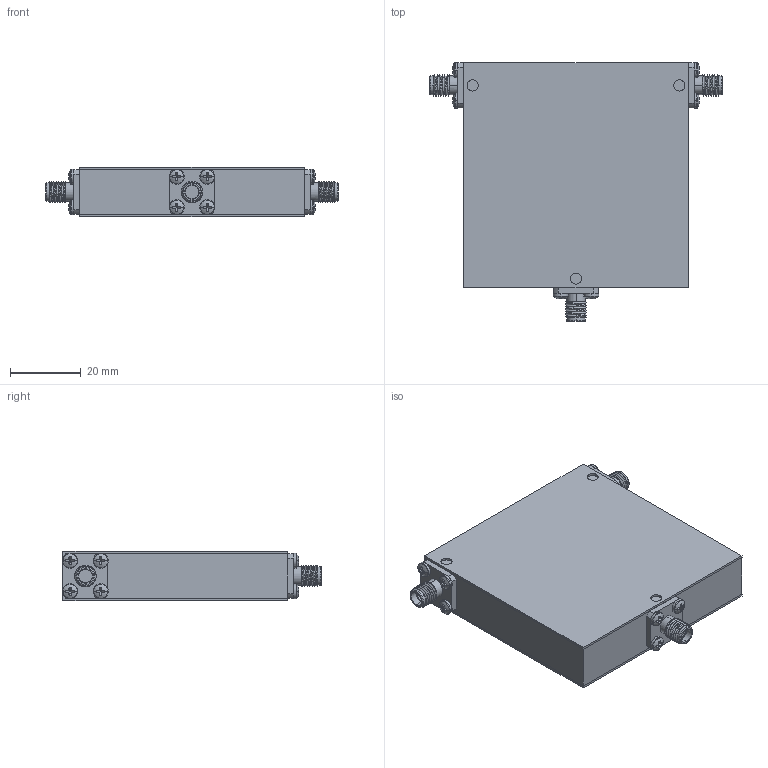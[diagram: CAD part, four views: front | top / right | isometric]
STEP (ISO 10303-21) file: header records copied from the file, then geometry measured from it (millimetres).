
FILE_DESCRIPTION (( 'STEP AP214' ), '1' );
FILE_NAME ('D3C1525 2.5x2.5x0.55 FFF.step', '2021-12-01T20:55:16', ( '' ), ( '' ), 'SwSTEP 2.0', 'SolidWorks 2016', '' );
FILE_SCHEMA (( 'AUTOMOTIVE_DESIGN' ));
Length unit declared in the file: inch
Products named in the file (5): Delta SMA-Female 0.500 flange Threaded; D3I1525 2.5x2.475x0.45; D3I1525 2.5x2.5x0.55; D3C1525 2.5x2.5x0.55 FFF; pan cross head_ai_CR-PHMS 0.086-56x0.125x0.125-N
Assembly tree (17 placements, depth 2):
  D3C1525 2.5x2.5x0.55 FFF
    D3I1525 2.5x2.475x0.45
    D3I1525 2.5x2.5x0.55
    pan cross head_ai_CR-PHMS 0.086-56x0.125x0.125-N  x12
    Delta SMA-Female 0.500 flange Threaded  x3
Bounding box: 82.55 x 73.11 x 13.97 mm (x, y, z)
Volume: 57508.8 mm3; surface area: 32004.8 mm2
Topology: 17 solids, 17 shells, 421 faces, 957 edges, 591 vertices
Faces by surface type: plane 232, cylinder 126, torus 30, sphere 24, bspline 9
Entity records: 3729 total; most frequent: CARTESIAN_POINT 1205, DIRECTION 527, ORIENTED_EDGE 434, EDGE_CURVE 217, AXIS2_PLACEMENT_3D 211, VERTEX_POINT 139, EDGE_LOOP 116, VECTOR 105
